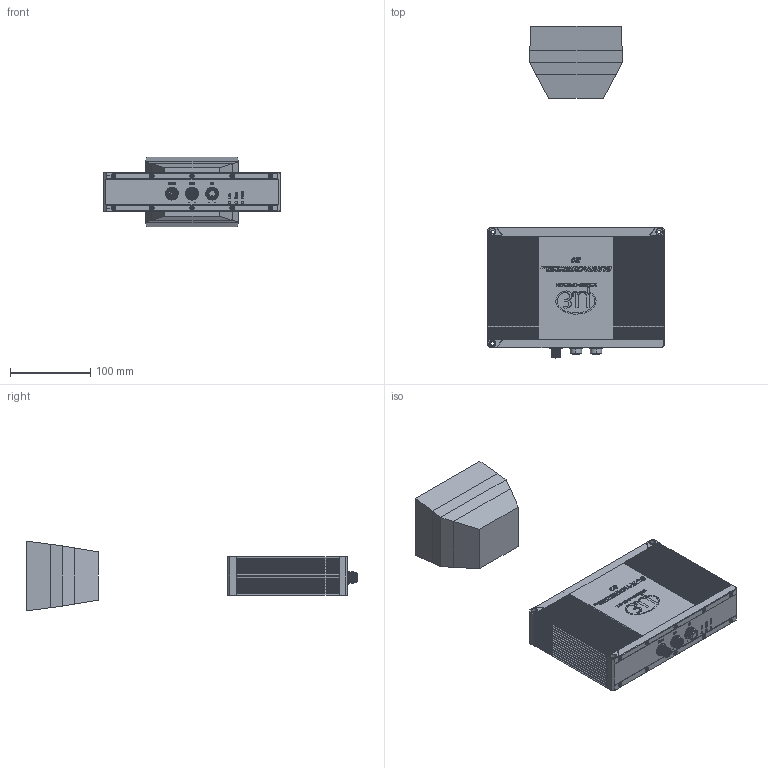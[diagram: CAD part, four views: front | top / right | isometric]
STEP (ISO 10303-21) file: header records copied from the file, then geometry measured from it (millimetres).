
FILE_DESCRIPTION((''),'2;1');
FILE_NAME('0000411212_ASM','2021-06-15T11:44:35',('pdmservice'),(''),'CREO PARAMETRIC BY PTC INC, 2018420','CREO PARAMETRIC BY PTC INC, 2018420','');
FILE_SCHEMA(('AUTOMOTIVE_DESIGN { 1 0 10303 214 1 1 1 1 }'));
Products named in the file (4): 0000411229_PRT; 0000411214_PRT; 0000411218_PRT; 0000411212_ASM
Assembly tree (3 placements, depth 2):
  0000411212_ASM
    0000411229_PRT
    0000411214_PRT
    0000411218_PRT
Bounding box: 220 x 413.5 x 87 mm (x, y, z)
Volume: 2213878.4 mm3; surface area: 243944.9 mm2
Topology: 5 solids, 9 shells, 4515 faces, 12001 edges, 7768 vertices
Faces by surface type: plane 1945, cylinder 1543, extrusion 753, torus 127, cone 102, bspline 35, sphere 10
Entity records: 203813 total; most frequent: CARTESIAN_POINT 69052, ORIENTED_EDGE 23998, DIRECTION 22134, EDGE_CURVE 11999, VERTEX_POINT 7768, AXIS2_PLACEMENT_3D 7540, VECTOR 7054, LINE 6301
